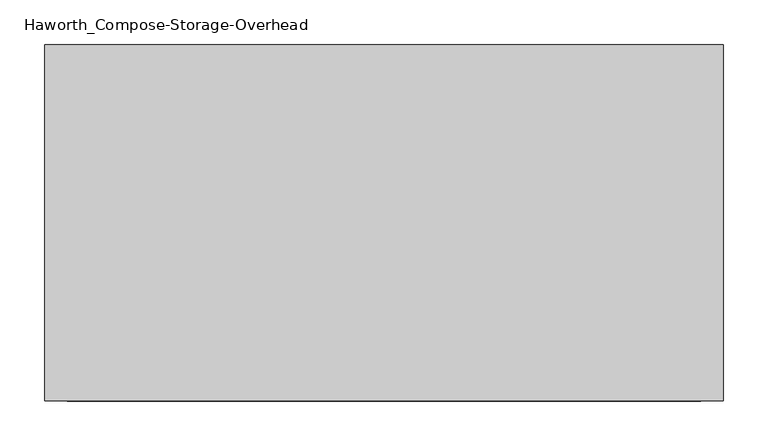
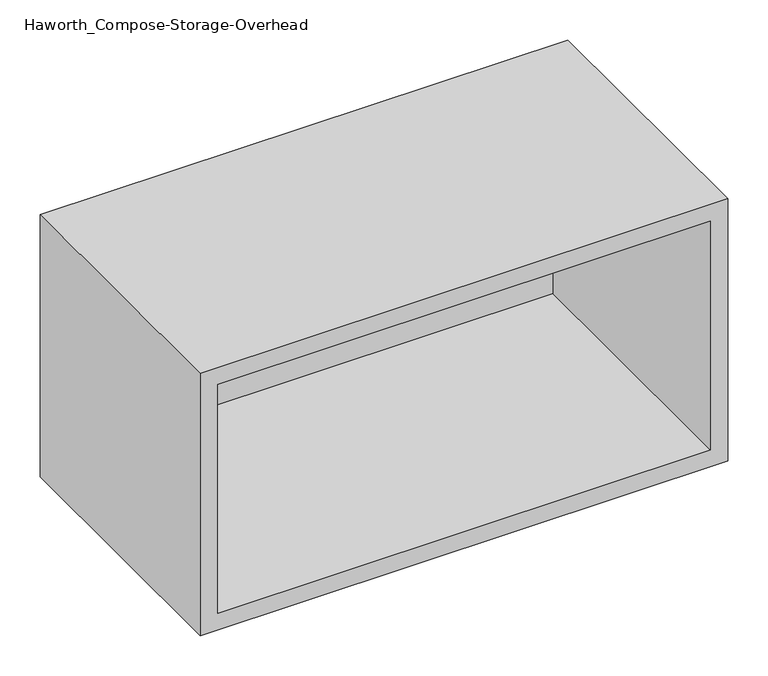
"""IFC4 building model written with IfcOpenShell, lengths in millimetres: furniture geometry."""

from ifc_helpers import new_model, si_unit, frame, origin, place, context, project, spatial, polyline, outline, extrude, source, transform, mapped, element, save


def haworth_compose_storage_overhead_ebce0026(model_context):
    return source(origin(), model_context, "Body", "SweptSolid", [
        extrude(outline(polyline([(520.7, -6.35), (-190.5, -6.35), (-190.5, 0.0), (520.7, 0.0), (520.7, -6.35)])), frame((0.0, 0.0, 762.0), z_axis=(0.0, 0.0, 1.0), x_axis=(1.0, 0.0, 0.0)), (0.0, 0.0, 1.0), 349.25),
        extrude(outline(polyline([(736.6, 546.1), (1136.65, 546.1), (1136.65, -215.9), (736.6, -215.9), (736.6, 546.1)]), holes=[polyline([(1111.25, 520.7), (762.0, 520.7), (762.0, -190.5), (1111.25, -190.5), (1111.25, 520.7)])]), frame((0.0, -400.05, 0.0), z_axis=(0.0, 1.0, 0.0), x_axis=(0.0, 0.0, 1.0)), (0.0, 0.0, 1.0), 400.05),
    ])


if __name__ == "__main__":
    model = new_model("IFC4")
    model_context = context("Model", 3, world=origin())
    ifc_project = project(units=[si_unit("LENGTHUNIT", "METRE", prefix="MILLI")], contexts=[model_context])
    site = spatial("IfcSite", under=ifc_project)
    building = spatial("IfcBuilding", under=site)
    placement = place(None, origin())
    haworth_compose_storage_overhead_shape = haworth_compose_storage_overhead_ebce0026(model_context)
    element("IfcFurniture", 1, ObjectType="Haworth_Compose-Storage-Overhead : 30\" x 16\" x 16\" - No Door", at=placement, inside=building, context=model_context, shape_type="MappedRepresentation", body=[
        mapped(haworth_compose_storage_overhead_shape, transform((0.0, 0.0, 0.0), x_axis=(1.0, 0.0, 0.0), y_axis=(0.0, 1.0, 0.0), z_axis=(0.0, 0.0, 1.0))),
    ])
    save(model, "model.ifc")
